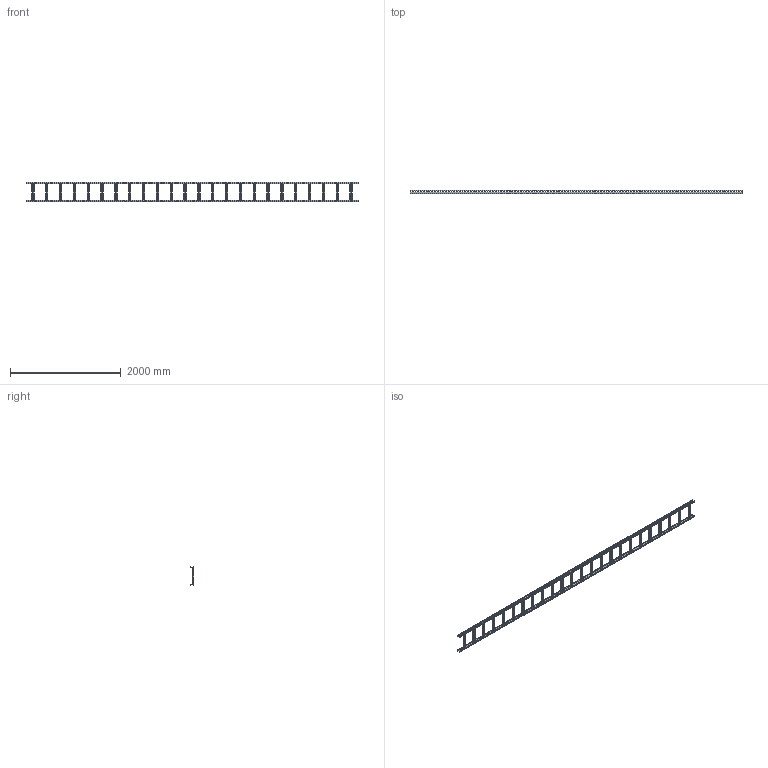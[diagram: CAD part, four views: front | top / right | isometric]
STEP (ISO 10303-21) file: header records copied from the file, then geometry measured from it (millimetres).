
FILE_DESCRIPTION(/* description */ (''),/* implementation_level */ '2;1');
FILE_NAME(/* name */ 'D:\Inventor projects\Biblioteka 3D\STP\WP 60-30.stp',/* time_stamp */ '2021-06-18T10:20:34+02:00',/* author */ ('psynowiec'),/* organization */ (''),/* preprocessor_version */ 'ST-DEVELOPER v16.13',/* originating_system */ 'Autodesk Inventor 2018',/* authorisation */ '');
FILE_SCHEMA (('AUTOMOTIVE_DESIGN { 1 0 10303 214 3 1 1 }'));
Products named in the file (1): WP 60-30
Bounding box: 6000 x 60 x 350.03 mm (x, y, z)
Volume: 3113946 mm3; surface area: 4270866.7 mm2
Topology: 26 solids, 26 shells, 4438 faces, 13526 edges, 8612 vertices
Faces by surface type: plane 3276, cylinder 1162
Full cylindrical faces by diameter (mm): 7 x42
Entity records: 158022 total; most frequent: CARTESIAN_POINT 35223, ORIENTED_EDGE 26968, DIRECTION 24494, EDGE_CURVE 13484, LINE 8856, VECTOR 8856, VERTEX_POINT 8612, AXIS2_PLACEMENT_3D 7819
